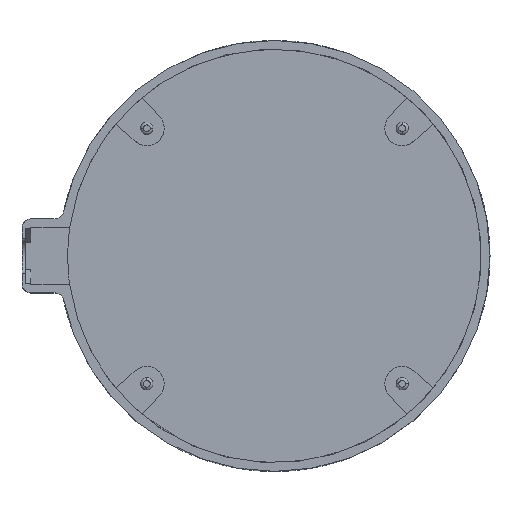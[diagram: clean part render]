
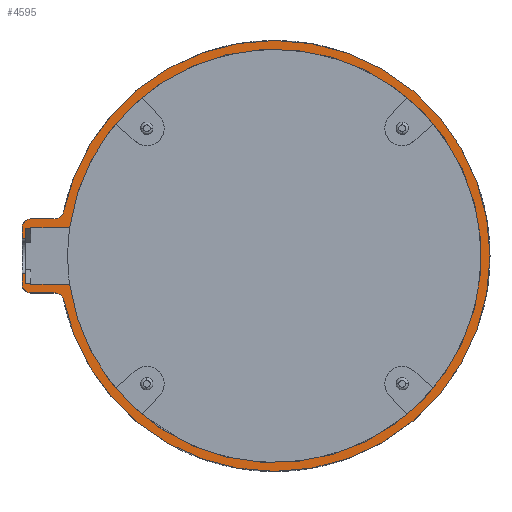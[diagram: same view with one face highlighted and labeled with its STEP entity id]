
A CAD part, top view. The second image highlights one B-rep face of the part: STEP entity #4595.
In plain terms, the highlighted planar face has unit normal (0, 0, 1).
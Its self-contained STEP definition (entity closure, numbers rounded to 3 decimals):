
#1454=DIRECTION('',(1.,0.,0.));
#1455=VECTOR('',#1454,8.947);
#1456=CARTESIAN_POINT('',(-56.,6.5,21.));
#1457=LINE('',#1456,#1455);
#1489=DIRECTION('',(0.,1.,0.));
#1490=VECTOR('',#1489,0.149);
#1491=CARTESIAN_POINT('',(-56.,6.351,21.));
#1492=LINE('',#1491,#1490);
#1517=DIRECTION('',(0.,1.,0.));
#1518=VECTOR('',#1517,0.149);
#1519=CARTESIAN_POINT('',(-56.,-6.5,21.));
#1520=LINE('',#1519,#1518);
#1558=DIRECTION('',(0.,1.,0.));
#1559=VECTOR('',#1558,2.5);
#1560=CARTESIAN_POINT('',(-58.,-6.5,21.));
#1561=LINE('',#1560,#1559);
#1562=DIRECTION('',(-1.,0.,0.));
#1563=VECTOR('',#1562,0.8);
#1564=CARTESIAN_POINT('',(-57.2,-4.,21.));
#1565=LINE('',#1564,#1563);
#1566=DIRECTION('',(0.,1.,0.));
#1567=VECTOR('',#1566,2.351);
#1568=CARTESIAN_POINT('',(-57.2,-6.351,21.));
#1569=LINE('',#1568,#1567);
#1570=DIRECTION('',(1.,0.,0.));
#1571=VECTOR('',#1570,1.2);
#1572=CARTESIAN_POINT('',(-57.2,-6.351,21.));
#1573=LINE('',#1572,#1571);
#1574=CARTESIAN_POINT('',(0.,0.,21.));
#1575=DIRECTION('',(0.,0.,1.));
#1576=DIRECTION('',(-0.991,-0.137,0.));
#1577=AXIS2_PLACEMENT_3D('',#1574,#1575,#1576);
#1579=DIRECTION('',(1.,0.,0.));
#1580=VECTOR('',#1579,1.2);
#1581=CARTESIAN_POINT('',(-57.2,6.351,21.));
#1582=LINE('',#1581,#1580);
#1583=DIRECTION('',(0.,1.,0.));
#1584=VECTOR('',#1583,2.351);
#1585=CARTESIAN_POINT('',(-57.2,4.,21.));
#1586=LINE('',#1585,#1584);
#1587=DIRECTION('',(1.,0.,0.));
#1588=VECTOR('',#1587,0.8);
#1589=CARTESIAN_POINT('',(-58.,4.,21.));
#1590=LINE('',#1589,#1588);
#1591=DIRECTION('',(0.,1.,0.));
#1592=VECTOR('',#1591,2.5);
#1593=CARTESIAN_POINT('',(-58.,4.,21.));
#1594=LINE('',#1593,#1592);
#1595=CARTESIAN_POINT('',(-56.,6.5,21.));
#1596=DIRECTION('',(0.,0.,-1.));
#1597=DIRECTION('',(-1.,0.,0.));
#1598=AXIS2_PLACEMENT_3D('',#1595,#1596,#1597);
#1600=DIRECTION('',(1.,0.,0.));
#1601=VECTOR('',#1600,5.582);
#1602=CARTESIAN_POINT('',(-56.,8.5,21.));
#1603=LINE('',#1602,#1601);
#1604=CARTESIAN_POINT('',(-50.418,10.5,21.));
#1605=DIRECTION('',(0.,0.,1.));
#1606=DIRECTION('',(0.,-1.,0.));
#1607=AXIS2_PLACEMENT_3D('',#1604,#1605,#1606);
#1609=CARTESIAN_POINT('',(0.,0.,21.));
#1610=DIRECTION('',(0.,0.,-1.));
#1611=DIRECTION('',(-0.979,0.204,0.));
#1612=AXIS2_PLACEMENT_3D('',#1609,#1610,#1611);
#1614=CARTESIAN_POINT('',(0.,0.,21.));
#1615=DIRECTION('',(0.,0.,-1.));
#1616=DIRECTION('',(0.,1.,0.));
#1617=AXIS2_PLACEMENT_3D('',#1614,#1615,#1616);
#1619=CARTESIAN_POINT('',(0.,0.,21.));
#1620=DIRECTION('',(0.,0.,-1.));
#1621=DIRECTION('',(0.,-1.,0.));
#1622=AXIS2_PLACEMENT_3D('',#1619,#1620,#1621);
#1624=CARTESIAN_POINT('',(-50.418,-10.5,21.));
#1625=DIRECTION('',(0.,0.,1.));
#1626=DIRECTION('',(0.979,0.204,0.));
#1627=AXIS2_PLACEMENT_3D('',#1624,#1625,#1626);
#1629=DIRECTION('',(-1.,0.,0.));
#1630=VECTOR('',#1629,5.582);
#1631=CARTESIAN_POINT('',(-50.418,-8.5,21.));
#1632=LINE('',#1631,#1630);
#1633=CARTESIAN_POINT('',(-56.,-6.5,21.));
#1634=DIRECTION('',(0.,0.,-1.));
#1635=DIRECTION('',(0.,-1.,0.));
#1636=AXIS2_PLACEMENT_3D('',#1633,#1634,#1635);
#1922=DIRECTION('',(-1.,0.,0.));
#1923=VECTOR('',#1922,8.947);
#1924=CARTESIAN_POINT('',(-47.053,-6.5,21.));
#1925=LINE('',#1924,#1923);
#2899=CARTESIAN_POINT('',(-48.46,-10.092,21.));
#2900=VERTEX_POINT('',#2899);
#2901=CARTESIAN_POINT('',(0.,-49.5,21.));
#2902=VERTEX_POINT('',#2901);
#2919=CARTESIAN_POINT('',(0.,49.5,21.));
#2920=VERTEX_POINT('',#2919);
#2921=CARTESIAN_POINT('',(-48.46,10.092,21.));
#2922=VERTEX_POINT('',#2921);
#3368=CARTESIAN_POINT('',(-56.,6.5,21.));
#3369=VERTEX_POINT('',#3368);
#3370=CARTESIAN_POINT('',(-47.053,6.5,21.));
#3371=VERTEX_POINT('',#3370);
#3382=CARTESIAN_POINT('',(-56.,-6.5,21.));
#3383=VERTEX_POINT('',#3382);
#3398=CARTESIAN_POINT('',(-58.,6.5,21.));
#3399=VERTEX_POINT('',#3398);
#3400=CARTESIAN_POINT('',(-58.,-6.5,21.));
#3401=VERTEX_POINT('',#3400);
#3415=CARTESIAN_POINT('',(-56.,8.5,21.));
#3416=VERTEX_POINT('',#3415);
#3417=CARTESIAN_POINT('',(-50.418,8.5,21.));
#3418=VERTEX_POINT('',#3417);
#3421=CARTESIAN_POINT('',(-50.418,-8.5,21.));
#3422=VERTEX_POINT('',#3421);
#3423=CARTESIAN_POINT('',(-56.,-8.5,21.));
#3424=VERTEX_POINT('',#3423);
#3425=CARTESIAN_POINT('',(-47.053,-6.5,21.));
#3426=VERTEX_POINT('',#3425);
#3574=CARTESIAN_POINT('',(-56.,6.351,21.));
#3576=VERTEX_POINT('',#3574);
#3578=CARTESIAN_POINT('',(-56.,-6.351,21.));
#3580=VERTEX_POINT('',#3578);
#3582=CARTESIAN_POINT('',(-58.,4.,21.));
#3583=CARTESIAN_POINT('',(-57.2,4.,21.));
#3584=VERTEX_POINT('',#3582);
#3585=VERTEX_POINT('',#3583);
#3586=CARTESIAN_POINT('',(-57.2,-4.,21.));
#3587=CARTESIAN_POINT('',(-58.,-4.,21.));
#3588=VERTEX_POINT('',#3586);
#3589=VERTEX_POINT('',#3587);
#3599=CARTESIAN_POINT('',(-57.2,6.351,21.));
#3601=VERTEX_POINT('',#3599);
#3603=CARTESIAN_POINT('',(-57.2,-6.351,21.));
#3605=VERTEX_POINT('',#3603);
#4556=CARTESIAN_POINT('',(0.,0.,21.));
#4557=DIRECTION('',(0.,0.,1.));
#4558=DIRECTION('',(0.,1.,0.));
#4559=AXIS2_PLACEMENT_3D('',#4556,#4557,#4558);
#4560=PLANE('',#4559);
#4562=ORIENTED_EDGE('',*,*,#4561,.T.);
#4564=ORIENTED_EDGE('',*,*,#4563,.F.);
#4565=ORIENTED_EDGE('',*,*,#4513,.F.);
#4566=ORIENTED_EDGE('',*,*,#4551,.T.);
#4567=ORIENTED_EDGE('',*,*,#4484,.F.);
#4569=ORIENTED_EDGE('',*,*,#4568,.F.);
#4571=ORIENTED_EDGE('',*,*,#4570,.T.);
#4572=ORIENTED_EDGE('',*,*,#4424,.F.);
#4573=ORIENTED_EDGE('',*,*,#4463,.F.);
#4574=ORIENTED_EDGE('',*,*,#4496,.F.);
#4575=ORIENTED_EDGE('',*,*,#4521,.F.);
#4577=ORIENTED_EDGE('',*,*,#4576,.F.);
#4579=ORIENTED_EDGE('',*,*,#4578,.T.);
#4580=ORIENTED_EDGE('',*,*,#3817,.T.);
#4581=ORIENTED_EDGE('',*,*,#3835,.T.);
#4582=ORIENTED_EDGE('',*,*,#3852,.T.);
#4583=ORIENTED_EDGE('',*,*,#3682,.T.);
#4585=ORIENTED_EDGE('',*,*,#4584,.T.);
#4586=ORIENTED_EDGE('',*,*,#3659,.T.);
#4588=ORIENTED_EDGE('',*,*,#4587,.T.);
#4590=ORIENTED_EDGE('',*,*,#4589,.T.);
#4592=ORIENTED_EDGE('',*,*,#4591,.T.);
#4593=EDGE_LOOP('',(#4562,#4564,#4565,#4566,#4567,#4569,#4571,#4572,#4573,#4574,
#4575,#4577,#4579,#4580,#4581,#4582,#4583,#4585,#4586,#4588,#4590,#4592));
#4594=FACE_OUTER_BOUND('',#4593,.F.);
#4595=ADVANCED_FACE('',(#4594),#4560,.T.);
#1578=CIRCLE('',#1577,47.5);
#1599=CIRCLE('',#1598,2.);
#1608=CIRCLE('',#1607,2.);
#1613=CIRCLE('',#1612,49.5);
#1618=CIRCLE('',#1617,49.5);
#1623=CIRCLE('',#1622,49.5);
#1628=CIRCLE('',#1627,2.);
#1637=CIRCLE('',#1636,2.);
#3659=EDGE_CURVE('',#2902,#2900,#1623,.T.);
#3682=EDGE_CURVE('',#2922,#2920,#1613,.T.);
#3817=EDGE_CURVE('',#3399,#3416,#1599,.T.);
#3835=EDGE_CURVE('',#3416,#3418,#1603,.T.);
#3852=EDGE_CURVE('',#3418,#2922,#1608,.T.);
#4424=EDGE_CURVE('',#3369,#3371,#1457,.T.);
#4463=EDGE_CURVE('',#3576,#3369,#1492,.T.);
#4484=EDGE_CURVE('',#3383,#3580,#1520,.T.);
#4496=EDGE_CURVE('',#3601,#3576,#1582,.T.);
#4513=EDGE_CURVE('',#3605,#3588,#1569,.T.);
#4521=EDGE_CURVE('',#3585,#3601,#1586,.T.);
#4551=EDGE_CURVE('',#3605,#3580,#1573,.T.);
#4561=EDGE_CURVE('',#3401,#3589,#1561,.T.);
#4563=EDGE_CURVE('',#3588,#3589,#1565,.T.);
#4568=EDGE_CURVE('',#3426,#3383,#1925,.T.);
#4570=EDGE_CURVE('',#3426,#3371,#1578,.T.);
#4576=EDGE_CURVE('',#3584,#3585,#1590,.T.);
#4578=EDGE_CURVE('',#3584,#3399,#1594,.T.);
#4584=EDGE_CURVE('',#2920,#2902,#1618,.T.);
#4587=EDGE_CURVE('',#2900,#3422,#1628,.T.);
#4589=EDGE_CURVE('',#3422,#3424,#1632,.T.);
#4591=EDGE_CURVE('',#3424,#3401,#1637,.T.);
